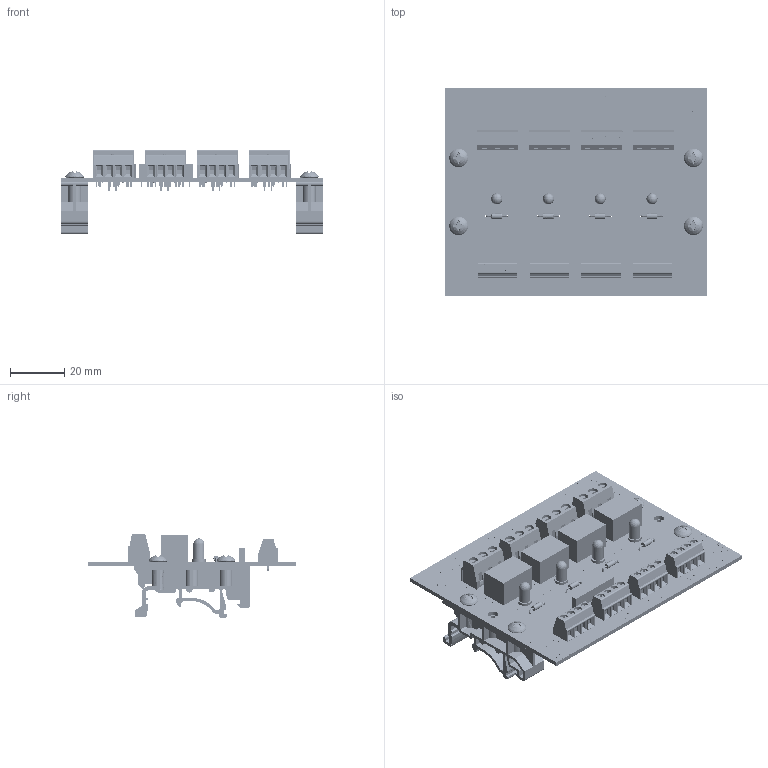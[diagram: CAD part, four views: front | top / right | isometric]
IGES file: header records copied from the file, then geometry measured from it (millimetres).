
Start section: SolidWorks IGES file using analytic representation for surfaces
Global section: file name: W:\end-user\products\rlp\rlp304\3dmodel\render\rlp304-xxv-din_rev_a.igs; native system: SolidWorks 2018; preprocessor: SolidWorks 2018; author: leviroy; date: 220805.124047; units: inch
Bounding box: 96.52 x 76.2 x 30.65 mm (x, y, z)
Surface area: 41727.7 mm2 (no closed solid volume)
Topology: 0 solids, 0 shells, 4495 faces, 42190 edges, 42186 vertices
Faces by surface type: bspline 3593, revolution 902
